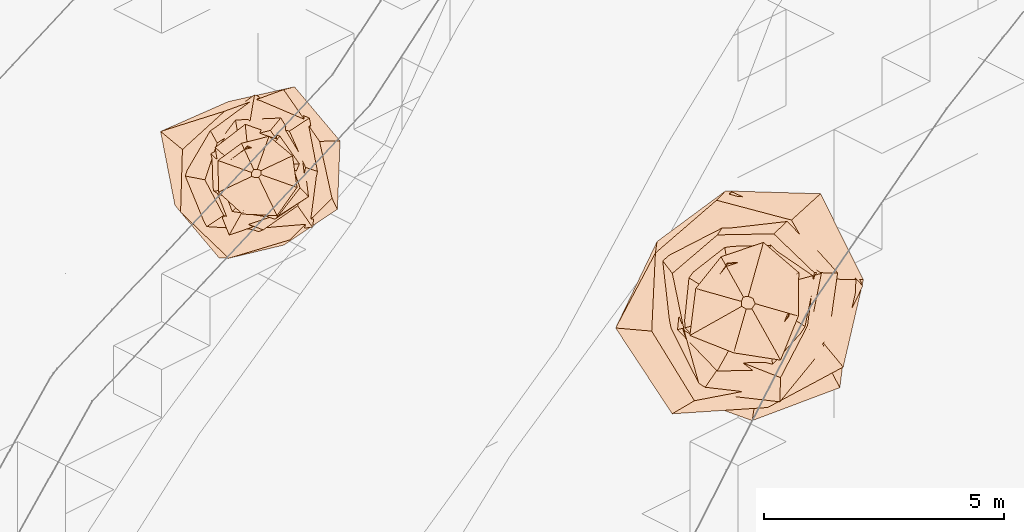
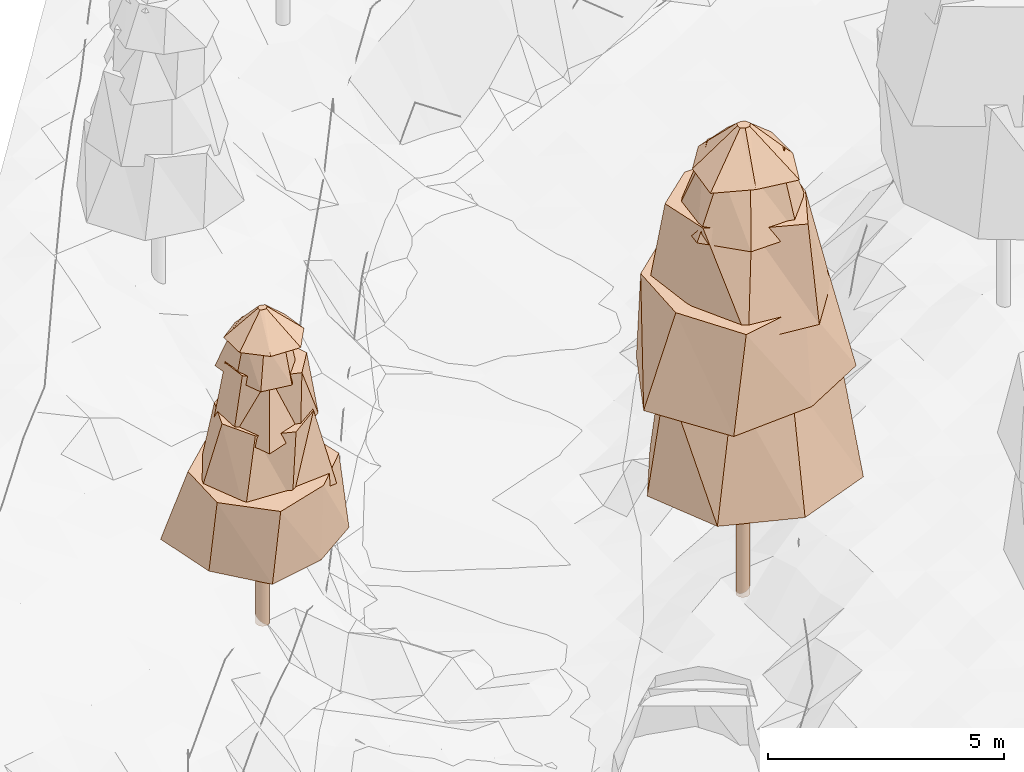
# Not in any storey, part 40 of 88: 2 geographic elements.
"""IFC4 model written with IfcOpenShell, lengths in metres."""

from ifc_helpers import new_model, si_unit, frame, origin_with_axes, place, context, subcontext, project, spatial, circle, extrude, faceted_brep, element, save


model = new_model("IFC4")

# Units and contexts
model_context = context("Model", 3, precision=1e-05, world=origin_with_axes())
body_context = subcontext(model_context, "Body", "Model", "MODEL_VIEW")
ifc_project = project(units=[si_unit("LENGTHUNIT", "METRE"), si_unit("AREAUNIT", "SQUARE_METRE"), si_unit("VOLUMEUNIT", "CUBIC_METRE"), si_unit("PLANEANGLEUNIT", "RADIAN")], contexts=[model_context])

# Sites
site_1_placement = place(None, origin_with_axes())
site_1 = spatial("IfcSite", under=ifc_project, at=site_1_placement, Name="CH907857693633", CompositionType="ELEMENT")
site_2_placement = place(None, origin_with_axes())
site_2 = spatial("IfcSite", under=site_1, at=site_2_placement, Name="Simulated_forest", CompositionType="ELEMENT")

# Geographic elements
geographic_element_1_placement = place(None, frame((101.968969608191, 80.0814902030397, 2.58575439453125), z_axis=(0.0, 0.0, 1.0), x_axis=(1.0, 0.0, 0.0)))
element("IfcGeographicElement", 1, at=geographic_element_1_placement, inside=site_2, Name="Tree_SIMULATED_WOODED_AREA", ObjectType="VEGETATION", PredefinedType="USERDEFINED", context=body_context, shape_type="Brep", body=[
    extrude(circle(Radius=0.15), origin_with_axes(), (0.0, 0.0, 1.0), 2.31749708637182),
    faceted_brep([(1.68864792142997, -0.742766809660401, 2.31749708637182), (0.57868191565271, -1.48751858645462, 2.31749708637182), (-0.773356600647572, -1.75819247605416, 2.31749708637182), (-1.69414467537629, -0.65906462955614, 2.31749708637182), (-1.99319826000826, 0.87672598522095, 2.31749708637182), (-0.582746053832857, 1.49796557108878, 2.31749708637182), (0.794700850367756, 1.80671769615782, 2.31749708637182), (1.74426041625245, 0.678560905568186, 2.31749708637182), (1.31702627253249, 0.670677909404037, 4.14016154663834), (0.568144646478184, 1.74720561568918, 4.14016154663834), (-0.660807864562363, 1.29764422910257, 4.14016154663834), (-1.53814652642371, 0.500164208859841, 4.14016154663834), (-1.57674165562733, -0.802934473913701, 4.14016154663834), (-0.573889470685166, -1.76487257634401, 4.14016154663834), (0.7026231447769, -1.37975789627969, 4.14016154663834), (1.57569201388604, -0.512372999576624, 4.14016154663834), (1.74426041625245, 0.678560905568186, 2.31749708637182), (0.794700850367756, 1.80671769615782, 2.31749708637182), (0.568144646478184, 1.74720561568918, 4.14016154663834), (1.31702627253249, 0.670677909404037, 4.14016154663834), (0.794700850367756, 1.80671769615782, 2.31749708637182), (-0.582746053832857, 1.49796557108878, 2.31749708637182), (-0.660807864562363, 1.29764422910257, 4.14016154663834), (0.568144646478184, 1.74720561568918, 4.14016154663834), (-0.582746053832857, 1.49796557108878, 2.31749708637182), (-1.99319826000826, 0.87672598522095, 2.31749708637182), (-1.53814652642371, 0.500164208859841, 4.14016154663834), (-0.660807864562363, 1.29764422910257, 4.14016154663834), (-1.99319826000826, 0.87672598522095, 2.31749708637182), (-1.69414467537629, -0.65906462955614, 2.31749708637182), (-1.57674165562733, -0.802934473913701, 4.14016154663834), (-1.53814652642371, 0.500164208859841, 4.14016154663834), (-1.69414467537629, -0.65906462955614, 2.31749708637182), (-0.773356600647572, -1.75819247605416, 2.31749708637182), (-0.573889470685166, -1.76487257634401, 4.14016154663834), (-1.57674165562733, -0.802934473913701, 4.14016154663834), (-0.773356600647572, -1.75819247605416, 2.31749708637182), (0.57868191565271, -1.48751858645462, 2.31749708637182), (0.7026231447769, -1.37975789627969, 4.14016154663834), (-0.573889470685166, -1.76487257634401, 4.14016154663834), (0.57868191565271, -1.48751858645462, 2.31749708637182), (1.68864792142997, -0.742766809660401, 2.31749708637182), (1.57569201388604, -0.512372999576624, 4.14016154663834), (0.7026231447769, -1.37975789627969, 4.14016154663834), (1.68864792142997, -0.742766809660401, 2.31749708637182), (1.74426041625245, 0.678560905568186, 2.31749708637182), (1.31702627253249, 0.670677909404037, 4.14016154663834), (1.57569201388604, -0.512372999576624, 4.14016154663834)], [[[0, 1, 2, 3, 4, 5, 6, 7]], [[8, 9, 10, 11, 12, 13, 14, 15]], [[16, 17, 18, 19]], [[20, 21, 22, 23]], [[24, 25, 26, 27]], [[28, 29, 30, 31]], [[32, 33, 34, 35]], [[36, 37, 38, 39]], [[40, 41, 42, 43]], [[44, 45, 46, 47]]]),
    faceted_brep([(1.17121113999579, -1.11970471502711, 3.86676187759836), (0.0273487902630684, -1.21642644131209, 3.86676187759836), (-1.09874636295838, -1.14928870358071, 3.86676187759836), (-1.55656163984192, -0.034996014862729, 3.86676187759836), (-0.983932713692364, 0.940662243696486, 3.86676187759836), (-0.036888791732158, 1.64074905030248, 3.86676187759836), (1.10478338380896, 1.15560342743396, 3.86676187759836), (1.31978801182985, 0.0296726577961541, 3.86676187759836), (1.02583600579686, 0.126275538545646, 5.59406271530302), (0.690109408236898, 0.883857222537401, 5.59406271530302), (-0.132871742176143, 1.07942218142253, 5.59406271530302), (-0.814109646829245, 0.635650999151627, 5.59406271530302), (-1.06951968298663, -0.131652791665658, 5.59406271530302), (-0.679895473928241, -0.87077573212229, 5.59406271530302), (0.14431459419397, -1.17238151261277, 5.59406271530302), (0.861240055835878, -0.672450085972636, 5.59406271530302), (1.31978801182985, 0.0296726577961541, 3.86676187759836), (1.10478338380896, 1.15560342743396, 3.86676187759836), (0.690109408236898, 0.883857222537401, 5.59406271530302), (1.02583600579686, 0.126275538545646, 5.59406271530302), (1.10478338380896, 1.15560342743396, 3.86676187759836), (-0.036888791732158, 1.64074905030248, 3.86676187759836), (-0.132871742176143, 1.07942218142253, 5.59406271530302), (0.690109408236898, 0.883857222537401, 5.59406271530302), (-0.036888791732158, 1.64074905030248, 3.86676187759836), (-0.983932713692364, 0.940662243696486, 3.86676187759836), (-0.814109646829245, 0.635650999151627, 5.59406271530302), (-0.132871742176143, 1.07942218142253, 5.59406271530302), (-0.983932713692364, 0.940662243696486, 3.86676187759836), (-1.55656163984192, -0.034996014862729, 3.86676187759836), (-1.06951968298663, -0.131652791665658, 5.59406271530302), (-0.814109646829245, 0.635650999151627, 5.59406271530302), (-1.55656163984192, -0.034996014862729, 3.86676187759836), (-1.09874636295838, -1.14928870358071, 3.86676187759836), (-0.679895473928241, -0.87077573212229, 5.59406271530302), (-1.06951968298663, -0.131652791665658, 5.59406271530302), (-1.09874636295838, -1.14928870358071, 3.86676187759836), (0.0273487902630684, -1.21642644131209, 3.86676187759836), (0.14431459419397, -1.17238151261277, 5.59406271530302), (-0.679895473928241, -0.87077573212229, 5.59406271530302), (0.0273487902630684, -1.21642644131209, 3.86676187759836), (1.17121113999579, -1.11970471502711, 3.86676187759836), (0.861240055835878, -0.672450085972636, 5.59406271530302), (0.14431459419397, -1.17238151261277, 5.59406271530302), (1.17121113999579, -1.11970471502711, 3.86676187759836), (1.31978801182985, 0.0296726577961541, 3.86676187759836), (1.02583600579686, 0.126275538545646, 5.59406271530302), (0.861240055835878, -0.672450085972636, 5.59406271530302)], [[[0, 1, 2, 3, 4, 5, 6, 7]], [[8, 9, 10, 11, 12, 13, 14, 15]], [[16, 17, 18, 19]], [[20, 21, 22, 23]], [[24, 25, 26, 27]], [[28, 29, 30, 31]], [[32, 33, 34, 35]], [[36, 37, 38, 39]], [[40, 41, 42, 43]], [[44, 45, 46, 47]]]),
    faceted_brep([(1.08799806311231, -0.479970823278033, 5.33496758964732), (0.373479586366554, -0.963121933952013, 5.33496758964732), (-0.564399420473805, -1.27938084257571, 5.33496758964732), (-0.929507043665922, -0.360444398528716, 5.33496758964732), (-0.954947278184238, 0.421275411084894, 5.33496758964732), (-0.432146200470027, 1.11441026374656, 5.33496758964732), (0.510440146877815, 1.15706593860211, 5.33496758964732), (0.976772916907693, 0.378773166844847, 5.33496758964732), (0.683435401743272, 0.347099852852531, 6.84872691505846), (0.293113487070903, 0.898102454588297, 6.84872691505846), (-0.369600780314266, 0.727739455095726, 6.84872691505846), (-0.77434493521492, 0.252722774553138, 6.84872691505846), (-0.700989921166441, -0.356015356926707, 6.84872691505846), (-0.2213195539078, -0.678125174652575, 6.84872691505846), (0.451635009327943, -0.889263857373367, 6.84872691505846), (0.910783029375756, -0.297252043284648, 6.84872691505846), (0.976772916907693, 0.378773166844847, 5.33496758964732), (0.510440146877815, 1.15706593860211, 5.33496758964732), (0.293113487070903, 0.898102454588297, 6.84872691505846), (0.683435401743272, 0.347099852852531, 6.84872691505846), (0.510440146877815, 1.15706593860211, 5.33496758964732), (-0.432146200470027, 1.11441026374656, 5.33496758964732), (-0.369600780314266, 0.727739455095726, 6.84872691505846), (0.293113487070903, 0.898102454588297, 6.84872691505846), (-0.432146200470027, 1.11441026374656, 5.33496758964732), (-0.954947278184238, 0.421275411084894, 5.33496758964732), (-0.77434493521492, 0.252722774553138, 6.84872691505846), (-0.369600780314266, 0.727739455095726, 6.84872691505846), (-0.954947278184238, 0.421275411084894, 5.33496758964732), (-0.929507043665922, -0.360444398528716, 5.33496758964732), (-0.700989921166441, -0.356015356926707, 6.84872691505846), (-0.77434493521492, 0.252722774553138, 6.84872691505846), (-0.929507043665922, -0.360444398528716, 5.33496758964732), (-0.564399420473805, -1.27938084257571, 5.33496758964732), (-0.2213195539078, -0.678125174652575, 6.84872691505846), (-0.700989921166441, -0.356015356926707, 6.84872691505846), (-0.564399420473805, -1.27938084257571, 5.33496758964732), (0.373479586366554, -0.963121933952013, 5.33496758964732), (0.451635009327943, -0.889263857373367, 6.84872691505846), (-0.2213195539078, -0.678125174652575, 6.84872691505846), (0.373479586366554, -0.963121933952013, 5.33496758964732), (1.08799806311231, -0.479970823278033, 5.33496758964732), (0.910783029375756, -0.297252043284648, 6.84872691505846), (0.451635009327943, -0.889263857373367, 6.84872691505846), (1.08799806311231, -0.479970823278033, 5.33496758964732), (0.976772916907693, 0.378773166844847, 5.33496758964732), (0.683435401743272, 0.347099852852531, 6.84872691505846), (0.910783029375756, -0.297252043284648, 6.84872691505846)], [[[0, 1, 2, 3, 4, 5, 6, 7]], [[8, 9, 10, 11, 12, 13, 14, 15]], [[16, 17, 18, 19]], [[20, 21, 22, 23]], [[24, 25, 26, 27]], [[28, 29, 30, 31]], [[32, 33, 34, 35]], [[36, 37, 38, 39]], [[40, 41, 42, 43]], [[44, 45, 46, 47]]]),
    faceted_brep([(0.641518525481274, -0.405735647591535, 6.62166301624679), (0.20241410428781, -0.899043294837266, 6.62166301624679), (-0.499256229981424, -0.78938619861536, 6.62166301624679), (-0.745148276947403, -0.167765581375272, 6.62166301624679), (-0.856026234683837, 0.541403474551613, 6.62166301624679), (-0.23060194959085, 1.0242425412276, 6.62166301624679), (0.491433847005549, 0.777018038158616, 6.62166301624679), (0.896607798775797, 0.201865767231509, 6.62166301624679), (0.53262976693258, 0.17736622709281, 7.65208051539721), (0.24637089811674, 0.492373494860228, 7.65208051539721), (-0.182806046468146, 0.548965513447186, 7.65208051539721), (-0.551528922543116, 0.275970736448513, 7.65208051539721), (-0.565624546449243, -0.188353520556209, 7.65208051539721), (-0.283121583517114, -0.565819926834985, 7.65208051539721), (0.184462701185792, -0.553940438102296, 7.65208051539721), (0.406410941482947, -0.203357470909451, 7.65208051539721), (0.896607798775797, 0.201865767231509, 6.62166301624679), (0.491433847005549, 0.777018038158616, 6.62166301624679), (0.24637089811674, 0.492373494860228, 7.65208051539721), (0.53262976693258, 0.17736622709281, 7.65208051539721), (0.491433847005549, 0.777018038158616, 6.62166301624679), (-0.23060194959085, 1.0242425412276, 6.62166301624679), (-0.182806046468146, 0.548965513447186, 7.65208051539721), (0.24637089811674, 0.492373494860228, 7.65208051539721), (-0.23060194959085, 1.0242425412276, 6.62166301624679), (-0.856026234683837, 0.541403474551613, 6.62166301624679), (-0.551528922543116, 0.275970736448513, 7.65208051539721), (-0.182806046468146, 0.548965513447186, 7.65208051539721), (-0.856026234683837, 0.541403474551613, 6.62166301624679), (-0.745148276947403, -0.167765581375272, 6.62166301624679), (-0.565624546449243, -0.188353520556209, 7.65208051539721), (-0.551528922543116, 0.275970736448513, 7.65208051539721), (-0.745148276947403, -0.167765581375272, 6.62166301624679), (-0.499256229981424, -0.78938619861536, 6.62166301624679), (-0.283121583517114, -0.565819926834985, 7.65208051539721), (-0.565624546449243, -0.188353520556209, 7.65208051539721), (-0.499256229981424, -0.78938619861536, 6.62166301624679), (0.20241410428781, -0.899043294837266, 6.62166301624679), (0.184462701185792, -0.553940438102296, 7.65208051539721), (-0.283121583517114, -0.565819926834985, 7.65208051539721), (0.20241410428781, -0.899043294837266, 6.62166301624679), (0.641518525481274, -0.405735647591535, 6.62166301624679), (0.406410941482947, -0.203357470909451, 7.65208051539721), (0.184462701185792, -0.553940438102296, 7.65208051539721), (0.641518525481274, -0.405735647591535, 6.62166301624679), (0.896607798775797, 0.201865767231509, 6.62166301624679), (0.53262976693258, 0.17736622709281, 7.65208051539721), (0.406410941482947, -0.203357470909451, 7.65208051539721)], [[[0, 1, 2, 3, 4, 5, 6, 7]], [[8, 9, 10, 11, 12, 13, 14, 15]], [[16, 17, 18, 19]], [[20, 21, 22, 23]], [[24, 25, 26, 27]], [[28, 29, 30, 31]], [[32, 33, 34, 35]], [[36, 37, 38, 39]], [[40, 41, 42, 43]], [[44, 45, 46, 47]]]),
    faceted_brep([(0.847619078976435, -0.288303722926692, 7.49751789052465), (0.431688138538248, -0.876722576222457, 7.49751789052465), (-0.28711814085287, -0.844133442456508, 7.49751789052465), (-0.786064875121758, -0.387049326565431, 7.49751789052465), (-0.798057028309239, 0.271446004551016, 7.49751789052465), (-0.310044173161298, 0.629673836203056, 7.49751789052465), (0.263858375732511, 0.775749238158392, 7.49751789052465), (0.754082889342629, 0.371301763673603, 7.49751789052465), (0.0968008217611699, 0.060357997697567, 8.15837207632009), (0.0205826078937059, 0.0887620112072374, 8.15837207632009), (-0.0539354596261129, 0.0865004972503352, 8.15837207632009), (-0.0968628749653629, 0.0224610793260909, 8.15837207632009), (-0.0985989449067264, -0.0614791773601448, 8.15837207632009), (-0.0194560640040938, -0.0839038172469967, 8.15837207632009), (0.0483180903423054, -0.0774914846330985, 8.15837207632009), (0.100725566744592, -0.0233567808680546, 8.15837207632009), (0.754082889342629, 0.371301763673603, 7.49751789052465), (0.263858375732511, 0.775749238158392, 7.49751789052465), (0.0205826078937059, 0.0887620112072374, 8.15837207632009), (0.0968008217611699, 0.060357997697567, 8.15837207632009), (0.263858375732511, 0.775749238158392, 7.49751789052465), (-0.310044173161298, 0.629673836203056, 7.49751789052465), (-0.0539354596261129, 0.0865004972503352, 8.15837207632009), (0.0205826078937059, 0.0887620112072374, 8.15837207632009), (-0.310044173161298, 0.629673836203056, 7.49751789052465), (-0.798057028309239, 0.271446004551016, 7.49751789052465), (-0.0968628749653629, 0.0224610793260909, 8.15837207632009), (-0.0539354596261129, 0.0865004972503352, 8.15837207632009), (-0.798057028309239, 0.271446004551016, 7.49751789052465), (-0.786064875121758, -0.387049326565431, 7.49751789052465), (-0.0985989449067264, -0.0614791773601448, 8.15837207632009), (-0.0968628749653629, 0.0224610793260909, 8.15837207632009), (-0.786064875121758, -0.387049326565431, 7.49751789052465), (-0.28711814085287, -0.844133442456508, 7.49751789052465), (-0.0194560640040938, -0.0839038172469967, 8.15837207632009), (-0.0985989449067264, -0.0614791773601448, 8.15837207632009), (-0.28711814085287, -0.844133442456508, 7.49751789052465), (0.431688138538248, -0.876722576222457, 7.49751789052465), (0.0483180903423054, -0.0774914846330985, 8.15837207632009), (-0.0194560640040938, -0.0839038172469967, 8.15837207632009), (0.431688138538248, -0.876722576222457, 7.49751789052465), (0.847619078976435, -0.288303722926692, 7.49751789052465), (0.100725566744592, -0.0233567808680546, 8.15837207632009), (0.0483180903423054, -0.0774914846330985, 8.15837207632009), (0.847619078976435, -0.288303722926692, 7.49751789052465), (0.754082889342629, 0.371301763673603, 7.49751789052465), (0.0968008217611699, 0.060357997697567, 8.15837207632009), (0.100725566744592, -0.0233567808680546, 8.15837207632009)], [[[0, 1, 2, 3, 4, 5, 6, 7]], [[8, 9, 10, 11, 12, 13, 14, 15]], [[16, 17, 18, 19]], [[20, 21, 22, 23]], [[24, 25, 26, 27]], [[28, 29, 30, 31]], [[32, 33, 34, 35]], [[36, 37, 38, 39]], [[40, 41, 42, 43]], [[44, 45, 46, 47]]]),
])
geographic_element_2_placement = place(None, frame((112.192084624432, 77.3992013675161, 1.38262939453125), z_axis=(0.0, 0.0, 1.0), x_axis=(1.0, 0.0, 0.0)))
element("IfcGeographicElement", 2, at=geographic_element_2_placement, inside=site_2, Name="Tree_SIMULATED_WOODED_AREA", ObjectType="VEGETATION", PredefinedType="USERDEFINED", context=body_context, shape_type="Brep", body=[
    extrude(circle(Radius=0.15), origin_with_axes(), (0.0, 0.0, 1.0), 3.42182677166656),
    faceted_brep([(1.92833951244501, -1.77567072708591, 3.42182677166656), (0.101513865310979, -2.46290291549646, 3.42182677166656), (-1.67405592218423, -1.81798806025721, 3.42182677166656), (-2.4023819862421, -0.0990193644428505, 3.42182677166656), (-1.48824683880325, 1.37042068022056, 3.42182677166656), (-0.0803785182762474, 1.95012263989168, 3.42182677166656), (1.71404858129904, 1.86141921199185, 3.42182677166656), (2.15599535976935, 0.0888640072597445, 3.42182677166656), (2.40566229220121, 0.341940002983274, 6.47579132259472), (1.20600375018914, 1.6056514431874, 6.47579132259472), (-0.327446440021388, 2.30369522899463, 6.47579132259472), (-1.32120357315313, 0.992355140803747, 6.47579132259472), (-2.05457188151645, -0.292036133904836, 6.47579132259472), (-1.01893500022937, -1.35659151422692, 6.47579132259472), (0.231555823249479, -1.62907266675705, 6.47579132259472), (1.63833339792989, -1.23055114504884, 6.47579132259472), (2.15599535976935, 0.0888640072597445, 3.42182677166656), (1.71404858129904, 1.86141921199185, 3.42182677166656), (1.20600375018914, 1.6056514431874, 6.47579132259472), (2.40566229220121, 0.341940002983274, 6.47579132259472), (1.71404858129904, 1.86141921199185, 3.42182677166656), (-0.0803785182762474, 1.95012263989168, 3.42182677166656), (-0.327446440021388, 2.30369522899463, 6.47579132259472), (1.20600375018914, 1.6056514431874, 6.47579132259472), (-0.0803785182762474, 1.95012263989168, 3.42182677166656), (-1.48824683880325, 1.37042068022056, 3.42182677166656), (-1.32120357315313, 0.992355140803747, 6.47579132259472), (-0.327446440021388, 2.30369522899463, 6.47579132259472), (-1.48824683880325, 1.37042068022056, 3.42182677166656), (-2.4023819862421, -0.0990193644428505, 3.42182677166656), (-2.05457188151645, -0.292036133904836, 6.47579132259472), (-1.32120357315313, 0.992355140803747, 6.47579132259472), (-2.4023819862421, -0.0990193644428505, 3.42182677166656), (-1.67405592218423, -1.81798806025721, 3.42182677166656), (-1.01893500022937, -1.35659151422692, 6.47579132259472), (-2.05457188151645, -0.292036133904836, 6.47579132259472), (-1.67405592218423, -1.81798806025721, 3.42182677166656), (0.101513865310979, -2.46290291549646, 3.42182677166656), (0.231555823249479, -1.62907266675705, 6.47579132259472), (-1.01893500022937, -1.35659151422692, 6.47579132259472), (0.101513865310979, -2.46290291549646, 3.42182677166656), (1.92833951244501, -1.77567072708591, 3.42182677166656), (1.63833339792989, -1.23055114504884, 6.47579132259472), (0.231555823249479, -1.62907266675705, 6.47579132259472), (1.92833951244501, -1.77567072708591, 3.42182677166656), (2.15599535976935, 0.0888640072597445, 3.42182677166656), (2.40566229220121, 0.341940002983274, 6.47579132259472), (1.63833339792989, -1.23055114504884, 6.47579132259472)], [[[0, 1, 2, 3, 4, 5, 6, 7]], [[8, 9, 10, 11, 12, 13, 14, 15]], [[16, 17, 18, 19]], [[20, 21, 22, 23]], [[24, 25, 26, 27]], [[28, 29, 30, 31]], [[32, 33, 34, 35]], [[36, 37, 38, 39]], [[40, 41, 42, 43]], [[44, 45, 46, 47]]]),
    faceted_brep([(1.99729391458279, -1.34633806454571, 6.01769663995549), (0.426169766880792, -2.18901921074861, 6.01769663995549), (-1.5643198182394, -2.3206700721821, 6.01769663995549), (-2.7404274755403, -0.533520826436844, 6.01769663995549), (-1.87870871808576, 1.26640202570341, 6.01769663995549), (-0.452023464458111, 2.32181661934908, 6.01769663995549), (1.52492270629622, 2.26222441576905, 6.01769663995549), (2.41839278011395, 0.470825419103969, 6.01769663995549), (1.62115105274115, 0.487800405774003, 8.33116463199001), (0.920776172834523, 1.71339051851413, 8.33116463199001), (-0.639745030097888, 2.12612231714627, 8.33116463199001), (-1.91286039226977, 1.02797129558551, 8.33116463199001), (-1.9897581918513, -0.598713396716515, 8.33116463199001), (-1.10094118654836, -2.04864357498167, 8.33116463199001), (0.522509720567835, -1.73650364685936, 8.33116463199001), (1.59014176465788, -0.854542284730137, 8.33116463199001), (2.41839278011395, 0.470825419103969, 6.01769663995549), (1.52492270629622, 2.26222441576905, 6.01769663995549), (0.920776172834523, 1.71339051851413, 8.33116463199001), (1.62115105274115, 0.487800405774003, 8.33116463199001), (1.52492270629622, 2.26222441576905, 6.01769663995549), (-0.452023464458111, 2.32181661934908, 6.01769663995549), (-0.639745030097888, 2.12612231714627, 8.33116463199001), (0.920776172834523, 1.71339051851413, 8.33116463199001), (-0.452023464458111, 2.32181661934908, 6.01769663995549), (-1.87870871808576, 1.26640202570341, 6.01769663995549), (-1.91286039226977, 1.02797129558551, 8.33116463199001), (-0.639745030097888, 2.12612231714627, 8.33116463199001), (-1.87870871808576, 1.26640202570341, 6.01769663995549), (-2.7404274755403, -0.533520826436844, 6.01769663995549), (-1.9897581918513, -0.598713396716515, 8.33116463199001), (-1.91286039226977, 1.02797129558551, 8.33116463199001), (-2.7404274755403, -0.533520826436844, 6.01769663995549), (-1.5643198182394, -2.3206700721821, 6.01769663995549), (-1.10094118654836, -2.04864357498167, 8.33116463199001), (-1.9897581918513, -0.598713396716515, 8.33116463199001), (-1.5643198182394, -2.3206700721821, 6.01769663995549), (0.426169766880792, -2.18901921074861, 6.01769663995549), (0.522509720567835, -1.73650364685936, 8.33116463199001), (-1.10094118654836, -2.04864357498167, 8.33116463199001), (0.426169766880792, -2.18901921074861, 6.01769663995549), (1.99729391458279, -1.34633806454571, 6.01769663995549), (1.59014176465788, -0.854542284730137, 8.33116463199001), (0.522509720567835, -1.73650364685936, 8.33116463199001), (1.99729391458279, -1.34633806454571, 6.01769663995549), (2.41839278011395, 0.470825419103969, 6.01769663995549), (1.62115105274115, 0.487800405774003, 8.33116463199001), (1.59014176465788, -0.854542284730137, 8.33116463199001)], [[[0, 1, 2, 3, 4, 5, 6, 7]], [[8, 9, 10, 11, 12, 13, 14, 15]], [[16, 17, 18, 19]], [[20, 21, 22, 23]], [[24, 25, 26, 27]], [[28, 29, 30, 31]], [[32, 33, 34, 35]], [[36, 37, 38, 39]], [[40, 41, 42, 43]], [[44, 45, 46, 47]]]),
    faceted_brep([(1.6741069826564, -0.848366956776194, 7.98414443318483), (0.6777183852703, -2.07029683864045, 7.98414443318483), (-0.95415043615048, -1.8828525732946, 7.98414443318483), (-1.63321384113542, -0.534637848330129, 7.98414443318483), (-1.79638019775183, 0.910329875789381, 7.98414443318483), (-0.513830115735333, 1.56965029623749, 7.98414443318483), (0.876573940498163, 1.7297686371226, 7.98414443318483), (1.88094378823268, 0.615733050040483, 7.98414443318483), (1.39583112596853, 0.617253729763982, 10.2769029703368), (0.551933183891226, 1.4270749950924, 10.2769029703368), (-0.621308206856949, 1.40499974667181, 10.2769029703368), (-1.56044976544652, 0.603516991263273, 10.2769029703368), (-1.31557075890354, -0.581761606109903, 10.2769029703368), (-0.43506155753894, -1.1248924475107, 10.2769029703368), (0.692624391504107, -1.56627110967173, 10.2769029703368), (1.2546290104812, -0.485238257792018, 10.2769029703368), (1.88094378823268, 0.615733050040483, 7.98414443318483), (0.876573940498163, 1.7297686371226, 7.98414443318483), (0.551933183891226, 1.4270749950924, 10.2769029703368), (1.39583112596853, 0.617253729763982, 10.2769029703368), (0.876573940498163, 1.7297686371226, 7.98414443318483), (-0.513830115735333, 1.56965029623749, 7.98414443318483), (-0.621308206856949, 1.40499974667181, 10.2769029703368), (0.551933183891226, 1.4270749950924, 10.2769029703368), (-0.513830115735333, 1.56965029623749, 7.98414443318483), (-1.79638019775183, 0.910329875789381, 7.98414443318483), (-1.56044976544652, 0.603516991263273, 10.2769029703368), (-0.621308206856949, 1.40499974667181, 10.2769029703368), (-1.79638019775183, 0.910329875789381, 7.98414443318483), (-1.63321384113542, -0.534637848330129, 7.98414443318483), (-1.31557075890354, -0.581761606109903, 10.2769029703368), (-1.56044976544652, 0.603516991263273, 10.2769029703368), (-1.63321384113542, -0.534637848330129, 7.98414443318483), (-0.95415043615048, -1.8828525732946, 7.98414443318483), (-0.43506155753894, -1.1248924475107, 10.2769029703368), (-1.31557075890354, -0.581761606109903, 10.2769029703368), (-0.95415043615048, -1.8828525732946, 7.98414443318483), (0.6777183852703, -2.07029683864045, 7.98414443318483), (0.692624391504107, -1.56627110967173, 10.2769029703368), (-0.43506155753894, -1.1248924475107, 10.2769029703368), (0.6777183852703, -2.07029683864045, 7.98414443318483), (1.6741069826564, -0.848366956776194, 7.98414443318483), (1.2546290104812, -0.485238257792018, 10.2769029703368), (0.692624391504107, -1.56627110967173, 10.2769029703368), (1.6741069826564, -0.848366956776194, 7.98414443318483), (1.88094378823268, 0.615733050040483, 7.98414443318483), (1.39583112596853, 0.617253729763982, 10.2769029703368), (1.2546290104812, -0.485238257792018, 10.2769029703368)], [[[0, 1, 2, 3, 4, 5, 6, 7]], [[8, 9, 10, 11, 12, 13, 14, 15]], [[16, 17, 18, 19]], [[20, 21, 22, 23]], [[24, 25, 26, 27]], [[28, 29, 30, 31]], [[32, 33, 34, 35]], [[36, 37, 38, 39]], [[40, 41, 42, 43]], [[44, 45, 46, 47]]]),
    faceted_brep([(1.30743600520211, -0.571759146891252, 9.932989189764), (0.550656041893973, -1.40658245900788, 9.932989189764), (-0.625064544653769, -1.42932893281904, 9.932989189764), (-1.45282011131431, -0.568757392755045, 9.932989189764), (-1.3342272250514, 0.583475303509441, 9.932989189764), (-0.487743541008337, 1.24588029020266, 9.932989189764), (0.558397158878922, 1.27688127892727, 9.932989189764), (1.54361696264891, 0.604303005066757, 9.932989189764), (0.768879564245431, 0.393611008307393, 11.4210406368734), (0.290850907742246, 0.900985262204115, 11.4210406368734), (-0.409983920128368, 0.800862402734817, 11.4210406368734), (-0.813574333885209, 0.262633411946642, 11.4210406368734), (-0.765436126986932, -0.391848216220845, 11.4210406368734), (-0.235781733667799, -0.730394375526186, 11.4210406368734), (0.45671124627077, -0.892139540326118, 11.4210406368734), (0.857029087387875, -0.276661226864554, 11.4210406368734), (1.54361696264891, 0.604303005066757, 9.932989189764), (0.558397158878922, 1.27688127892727, 9.932989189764), (0.290850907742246, 0.900985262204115, 11.4210406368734), (0.768879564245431, 0.393611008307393, 11.4210406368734), (0.558397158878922, 1.27688127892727, 9.932989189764), (-0.487743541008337, 1.24588029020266, 9.932989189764), (-0.409983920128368, 0.800862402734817, 11.4210406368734), (0.290850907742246, 0.900985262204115, 11.4210406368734), (-0.487743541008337, 1.24588029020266, 9.932989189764), (-1.3342272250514, 0.583475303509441, 9.932989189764), (-0.813574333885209, 0.262633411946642, 11.4210406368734), (-0.409983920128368, 0.800862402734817, 11.4210406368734), (-1.3342272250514, 0.583475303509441, 9.932989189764), (-1.45282011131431, -0.568757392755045, 9.932989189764), (-0.765436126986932, -0.391848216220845, 11.4210406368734), (-0.813574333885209, 0.262633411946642, 11.4210406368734), (-1.45282011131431, -0.568757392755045, 9.932989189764), (-0.625064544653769, -1.42932893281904, 9.932989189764), (-0.235781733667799, -0.730394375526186, 11.4210406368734), (-0.765436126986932, -0.391848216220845, 11.4210406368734), (-0.625064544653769, -1.42932893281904, 9.932989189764), (0.550656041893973, -1.40658245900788, 9.932989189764), (0.45671124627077, -0.892139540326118, 11.4210406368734), (-0.235781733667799, -0.730394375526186, 11.4210406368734), (0.550656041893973, -1.40658245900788, 9.932989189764), (1.30743600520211, -0.571759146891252, 9.932989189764), (0.857029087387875, -0.276661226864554, 11.4210406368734), (0.45671124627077, -0.892139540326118, 11.4210406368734), (1.30743600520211, -0.571759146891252, 9.932989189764), (1.54361696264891, 0.604303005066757, 9.932989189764), (0.768879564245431, 0.393611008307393, 11.4210406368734), (0.857029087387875, -0.276661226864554, 11.4210406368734)], [[[0, 1, 2, 3, 4, 5, 6, 7]], [[8, 9, 10, 11, 12, 13, 14, 15]], [[16, 17, 18, 19]], [[20, 21, 22, 23]], [[24, 25, 26, 27]], [[28, 29, 30, 31]], [[32, 33, 34, 35]], [[36, 37, 38, 39]], [[40, 41, 42, 43]], [[44, 45, 46, 47]]]),
    faceted_brep([(1.06322782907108, -0.285675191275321, 11.197832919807), (0.693280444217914, -1.20270710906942, 11.197832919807), (-0.282595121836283, -1.05176440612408, 11.197832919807), (-1.19529374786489, -0.689007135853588, 11.197832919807), (-1.07332302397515, 0.288387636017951, 11.197832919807), (-0.546556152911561, 0.948168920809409, 11.197832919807), (0.335673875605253, 1.24931326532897, 11.197832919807), (1.07268488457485, 0.618331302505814, 11.197832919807), (0.116394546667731, 0.083607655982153, 12.1446979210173), (0.0204944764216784, 0.125017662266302, 12.1446979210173), (-0.0815302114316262, 0.113502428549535, 12.1446979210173), (-0.124692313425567, 0.020441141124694, 12.1446979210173), (-0.115363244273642, -0.0828668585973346, 12.1446979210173), (-0.0229750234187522, -0.140149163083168, 12.1446979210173), (0.0952840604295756, -0.132649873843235, 12.1446979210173), (0.166709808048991, -0.0273291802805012, 12.1446979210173), (1.07268488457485, 0.618331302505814, 11.197832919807), (0.335673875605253, 1.24931326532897, 11.197832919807), (0.0204944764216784, 0.125017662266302, 12.1446979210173), (0.116394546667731, 0.083607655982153, 12.1446979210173), (0.335673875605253, 1.24931326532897, 11.197832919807), (-0.546556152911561, 0.948168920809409, 11.197832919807), (-0.0815302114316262, 0.113502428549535, 12.1446979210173), (0.0204944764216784, 0.125017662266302, 12.1446979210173), (-0.546556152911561, 0.948168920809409, 11.197832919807), (-1.07332302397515, 0.288387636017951, 11.197832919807), (-0.124692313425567, 0.020441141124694, 12.1446979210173), (-0.0815302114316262, 0.113502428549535, 12.1446979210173), (-1.07332302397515, 0.288387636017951, 11.197832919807), (-1.19529374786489, -0.689007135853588, 11.197832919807), (-0.115363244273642, -0.0828668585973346, 12.1446979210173), (-0.124692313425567, 0.020441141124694, 12.1446979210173), (-1.19529374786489, -0.689007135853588, 11.197832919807), (-0.282595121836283, -1.05176440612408, 11.197832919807), (-0.0229750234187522, -0.140149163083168, 12.1446979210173), (-0.115363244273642, -0.0828668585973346, 12.1446979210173), (-0.282595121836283, -1.05176440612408, 11.197832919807), (0.693280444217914, -1.20270710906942, 11.197832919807), (0.0952840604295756, -0.132649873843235, 12.1446979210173), (-0.0229750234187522, -0.140149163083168, 12.1446979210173), (0.693280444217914, -1.20270710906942, 11.197832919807), (1.06322782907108, -0.285675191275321, 11.197832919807), (0.166709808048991, -0.0273291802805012, 12.1446979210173), (0.0952840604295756, -0.132649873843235, 12.1446979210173), (1.06322782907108, -0.285675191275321, 11.197832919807), (1.07268488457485, 0.618331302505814, 11.197832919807), (0.116394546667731, 0.083607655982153, 12.1446979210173), (0.166709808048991, -0.0273291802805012, 12.1446979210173)], [[[0, 1, 2, 3, 4, 5, 6, 7]], [[8, 9, 10, 11, 12, 13, 14, 15]], [[16, 17, 18, 19]], [[20, 21, 22, 23]], [[24, 25, 26, 27]], [[28, 29, 30, 31]], [[32, 33, 34, 35]], [[36, 37, 38, 39]], [[40, 41, 42, 43]], [[44, 45, 46, 47]]]),
])

save(model, "model.ifc")
